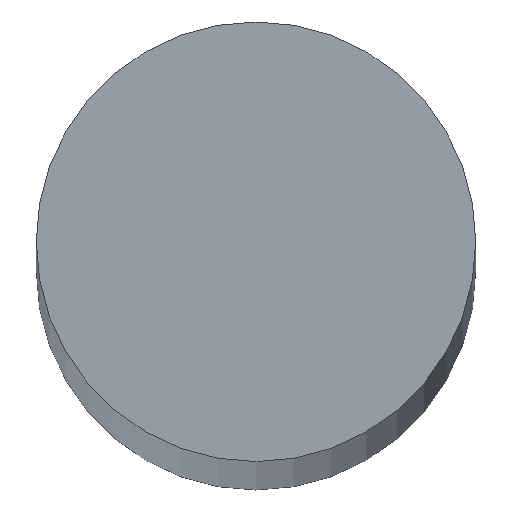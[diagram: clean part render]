
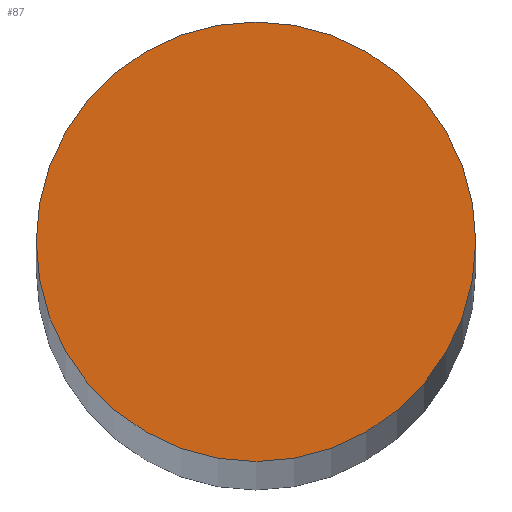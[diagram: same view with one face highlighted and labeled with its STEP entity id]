
A CAD part, top view. The second image highlights one B-rep face of the part: STEP entity #87.
In plain terms, the highlighted planar face has unit normal (0, 0, 1).
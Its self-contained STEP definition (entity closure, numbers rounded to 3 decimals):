
#3 = AXIS2_PLACEMENT_3D ( 'NONE', #34, #38, #39 ) ;
#7 = EDGE_CURVE ( 'NONE', #20, #18, #105, .T. ) ;
#11 = AXIS2_PLACEMENT_3D ( 'NONE', #19, #23, #24 ) ;
#14 = EDGE_CURVE ( 'NONE', #18, #20, #114, .T. ) ;
#18 = VERTEX_POINT ( 'NONE', #36 ) ;
#19 = CARTESIAN_POINT ( 'NONE',  ( 0., 0., 222.5 ) ) ;
#20 = VERTEX_POINT ( 'NONE', #37 ) ;
#23 = DIRECTION ( 'NONE',  ( 0., 0., 1. ) ) ;
#24 = DIRECTION ( 'NONE',  ( 1., 0., 0. ) ) ;
#34 = CARTESIAN_POINT ( 'NONE',  ( 0., 0., 222.5 ) ) ;
#36 = CARTESIAN_POINT ( 'NONE',  ( 6., 0., 222.5 ) ) ;
#37 = CARTESIAN_POINT ( 'NONE',  ( -6., 0., 222.5 ) ) ;
#38 = DIRECTION ( 'NONE',  ( 0., 0., 1. ) ) ;
#39 = DIRECTION ( 'NONE',  ( 1., 0., 0. ) ) ;
#56 = CARTESIAN_POINT ( 'NONE',  ( 0., 0., 222.5 ) ) ;
#57 = PLANE ( 'NONE',  #135 ) ;
#59 = DIRECTION ( 'NONE',  ( 0., 0., 1. ) ) ;
#60 = DIRECTION ( 'NONE',  ( 1., 0., 0. ) ) ;
#87 = ADVANCED_FACE ( 'NONE', ( #120 ), #57, .T. ) ;
#89 = EDGE_LOOP ( 'NONE', ( #98, #99 ) ) ;
#98 = ORIENTED_EDGE ( 'NONE', *, *, #7, .T. ) ;
#99 = ORIENTED_EDGE ( 'NONE', *, *, #14, .T. ) ;
#105 = CIRCLE ( 'NONE', #11, 6. ) ;
#114 = CIRCLE ( 'NONE', #3, 6. ) ;
#120 = FACE_OUTER_BOUND ( 'NONE', #89, .T. ) ;
#135 = AXIS2_PLACEMENT_3D ( 'NONE', #56, #59, #60 ) ;
